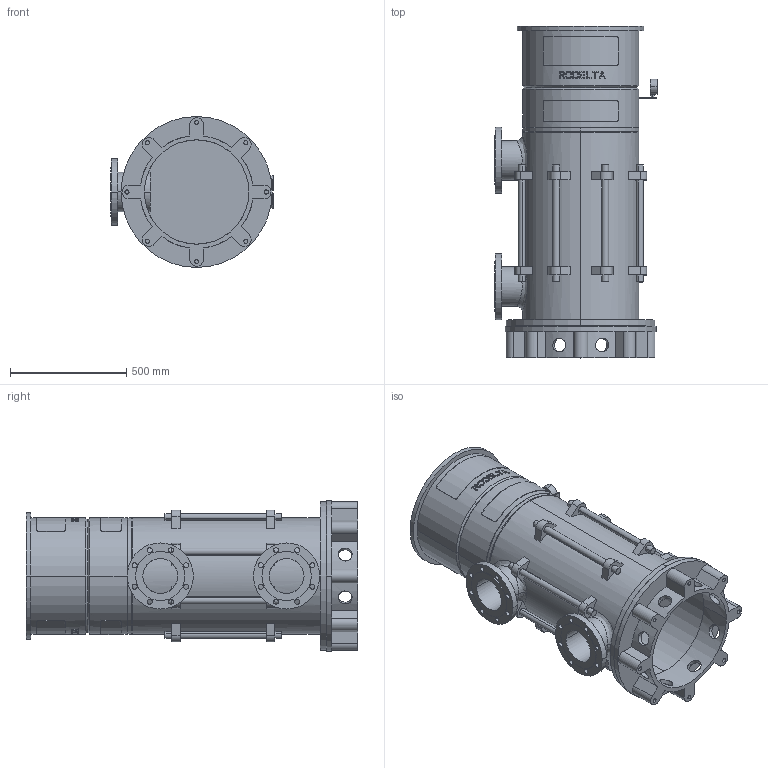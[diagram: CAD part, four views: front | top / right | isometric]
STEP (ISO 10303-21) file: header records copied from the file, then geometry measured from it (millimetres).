
FILE_DESCRIPTION((''),'2;1');
FILE_NAME('LS6_3TR_0GR_PN16_ABOVE_30KW','2025-10-23T11:58:21',('Lyritlocal'),(''),'CREO PARAMETRIC BY PTC INC, 2022014','CREO PARAMETRIC BY PTC INC, 2022014','');
FILE_SCHEMA(('CONFIG_CONTROL_DESIGN'));
Length unit declared in the file: millimetre
Products named in the file (1): LS6_3TR_0GR_PN16_ABOVE_30KW
Bounding box: 700 x 1429 x 650 mm (x, y, z)
Volume: 49703063.7 mm3; surface area: 6671413.3 mm2
Topology: 3 solids, 11 shells, 732 faces, 1889 edges, 1258 vertices
Faces by surface type: plane 438, cylinder 274, cone 12, bspline 8
Entity records: 24248 total; most frequent: CARTESIAN_POINT 6428, ORIENTED_EDGE 3746, DIRECTION 3535, EDGE_CURVE 1889, AXIS2_PLACEMENT_3D 1341, VERTEX_POINT 1258, EDGE_LOOP 895, VECTOR 853
